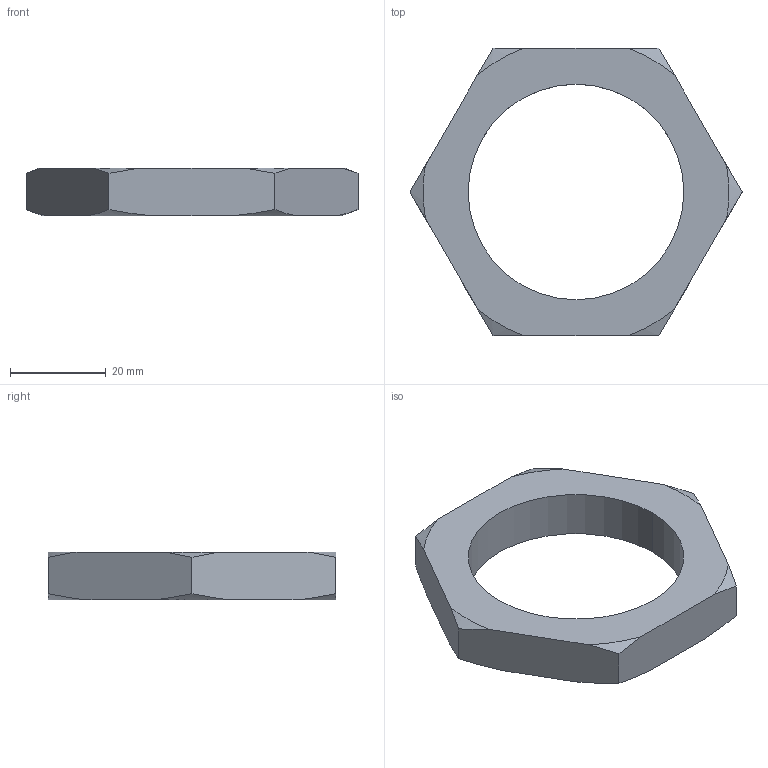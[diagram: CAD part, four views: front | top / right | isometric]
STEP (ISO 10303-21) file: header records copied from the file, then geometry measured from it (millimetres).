
FILE_DESCRIPTION(('CATIA V5 STEP Exchange'),'2;1');
FILE_NAME('W:\LIBRERIA TECAPRES®\DIBUJOS STRACK 2012\BRIDAS\FR\FR 45.stp','2013-04-09T06:52:11+00:00',('none'),('none'),'CATIA Version 5 Release 17 (IN-10)','CATIA V5 STEP AP203','none');
FILE_SCHEMA(('CONFIG_CONTROL_DESIGN'));
Length unit declared in the file: millimetre
Products named in the file (1): C:\Documents and Settings\Luisg\Mis documentos\Dibujos catálogo 2009\MICRO25x25
Bounding box: 69.28 x 60 x 10 mm (x, y, z)
Volume: 15180.7 mm3; surface area: 6459.9 mm2
Topology: 1 solids, 1 shells, 22 faces, 60 edges, 40 vertices
Faces by surface type: revolution 12, plane 8, cylinder 2
Entity records: 876 total; most frequent: CARTESIAN_POINT 385, ORIENTED_EDGE 120, EDGE_CURVE 60, DIRECTION 44, VERTEX_POINT 40, B_SPLINE_CURVE_WITH_KNOTS 38, EDGE_LOOP 24, ADVANCED_FACE 22
